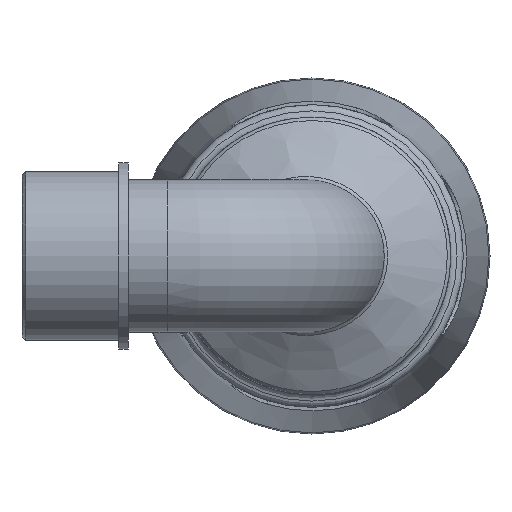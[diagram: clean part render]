
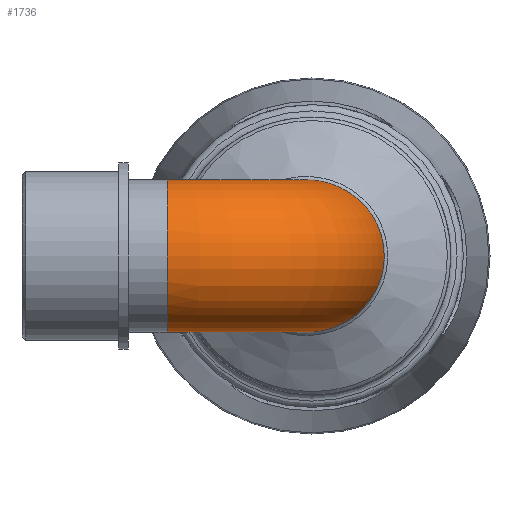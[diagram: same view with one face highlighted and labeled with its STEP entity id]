
A CAD part, left-side view. The second image highlights one B-rep face of the part: STEP entity #1736.
In plain terms, the highlighted toroidal (fillet/blend) face has major radius 28.465 mm and minor radius 14.962 mm.
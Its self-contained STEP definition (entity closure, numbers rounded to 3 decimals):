
#80=TOROIDAL_SURFACE('',#1855,28.465,14.962);
#90=FACE_BOUND('',#436,.T.);
#319=FACE_OUTER_BOUND('',#435,.T.);
#435=EDGE_LOOP('',(#1149));
#436=EDGE_LOOP('',(#1150));
#557=B_SPLINE_CURVE_WITH_KNOTS('',3,(#2622,#2623,#2624,#2625,#2626,#2627,
#2628,#2629,#2630,#2631,#2632,#2633,#2634,#2635,#2636,#2637,#2638,#2639),
 .UNSPECIFIED.,.T.,.F.,(4,1,1,1,1,1,1,1,1,1,1,1,1,1,1,4),(-3.142,
-2.693,-2.244,-1.795,-1.346,
-0.898,-0.449,0.15,0.449,
1.047,1.346,1.795,2.244,2.693,
2.917,3.142),.UNSPECIFIED.);
#631=CIRCLE('',#1850,14.962);
#721=VERTEX_POINT('',#2620);
#728=VERTEX_POINT('',#2873);
#882=EDGE_CURVE('',#721,#721,#557,.T.);
#892=EDGE_CURVE('',#728,#728,#631,.T.);
#1149=ORIENTED_EDGE('',*,*,#882,.F.);
#1150=ORIENTED_EDGE('',*,*,#892,.T.);
#1736=ADVANCED_FACE('',(#319,#90),#80,.T.);
#1850=AXIS2_PLACEMENT_3D('',#2874,#2066,#2067);
#1855=AXIS2_PLACEMENT_3D('',#2882,#2076,#2077);
#2066=DIRECTION('center_axis',(0.,-1.,0.));
#2067=DIRECTION('ref_axis',(-1.,0.,0.));
#2076=DIRECTION('center_axis',(0.,0.,1.));
#2077=DIRECTION('ref_axis',(1.,0.,0.));
#2620=CARTESIAN_POINT('',(20.027,17.923,0.));
#2622=CARTESIAN_POINT('Ctrl Pts',(20.027,17.926,0.001));
#2623=CARTESIAN_POINT('Ctrl Pts',(20.027,17.923,2.298));
#2624=CARTESIAN_POINT('Ctrl Pts',(19.987,16.52,6.862));
#2625=CARTESIAN_POINT('Ctrl Pts',(19.996,11.57,12.058));
#2626=CARTESIAN_POINT('Ctrl Pts',(20.098,5.09,15.005));
#2627=CARTESIAN_POINT('Ctrl Pts',(20.203,-2.021,15.154));
#2628=CARTESIAN_POINT('Ctrl Pts',(20.282,-8.507,12.308));
#2629=CARTESIAN_POINT('Ctrl Pts',(20.333,-13.616,6.292));
#2630=CARTESIAN_POINT('Ctrl Pts',(20.343,-14.742,-0.845));
#2631=CARTESIAN_POINT('Ctrl Pts',(20.321,-12.343,-8.243));
#2632=CARTESIAN_POINT('Ctrl Pts',(20.275,-7.834,-12.802));
#2633=CARTESIAN_POINT('Ctrl Pts',(20.191,-1.225,-15.133));
#2634=CARTESIAN_POINT('Ctrl Pts',(20.098,5.085,-15.005));
#2635=CARTESIAN_POINT('Ctrl Pts',(19.997,11.575,-12.061));
#2636=CARTESIAN_POINT('Ctrl Pts',(19.988,15.688,-7.721));
#2637=CARTESIAN_POINT('Ctrl Pts',(20.018,17.581,-3.45));
#2638=CARTESIAN_POINT('Ctrl Pts',(20.028,17.927,-1.147));
#2639=CARTESIAN_POINT('Ctrl Pts',(20.027,17.926,0.001));
#2873=CARTESIAN_POINT('',(14.962,28.465,0.));
#2874=CARTESIAN_POINT('Origin',(0.,28.465,0.));
#2882=CARTESIAN_POINT('Origin',(28.465,28.465,0.));
